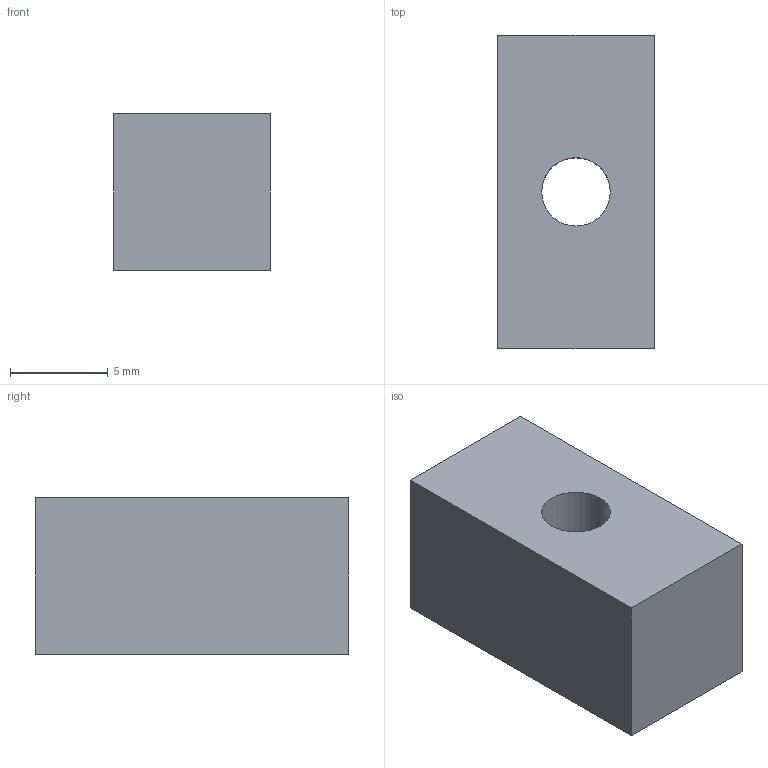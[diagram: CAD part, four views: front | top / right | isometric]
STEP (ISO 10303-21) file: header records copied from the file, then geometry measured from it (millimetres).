
FILE_DESCRIPTION(('Open CASCADE Model'),'2;1');
FILE_NAME('Open CASCADE Shape Model','2026-10-15T18:22:09',('Author'),( 'Open CASCADE'),'Open CASCADE STEP processor 7.9','Open CASCADE 7.9' ,'Unknown');
FILE_SCHEMA(('AUTOMOTIVE_DESIGN { 1 0 10303 214 1 1 1 1 }'));
Length unit declared in the file: millimetre
Products named in the file (1): Open CASCADE STEP translator 7.9 21
Bounding box: 8 x 16 x 8 mm (x, y, z)
Volume: 947 mm3; surface area: 708.7 mm2
Topology: 1 solids, 1 shells, 7 faces, 15 edges, 10 vertices
Faces by surface type: plane 6, cylinder 1
Full cylindrical faces by diameter (mm): 3.5 x1
Entity records: 400 total; most frequent: CARTESIAN_POINT 63, DIRECTION 63, LINE 41, VECTOR 41, ORIENTED_EDGE 30, PCURVE 30, DEFINITIONAL_REPRESENTATION 30, EDGE_CURVE 15
